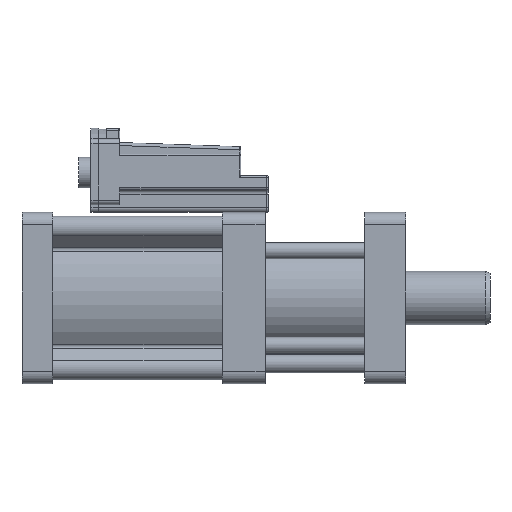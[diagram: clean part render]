
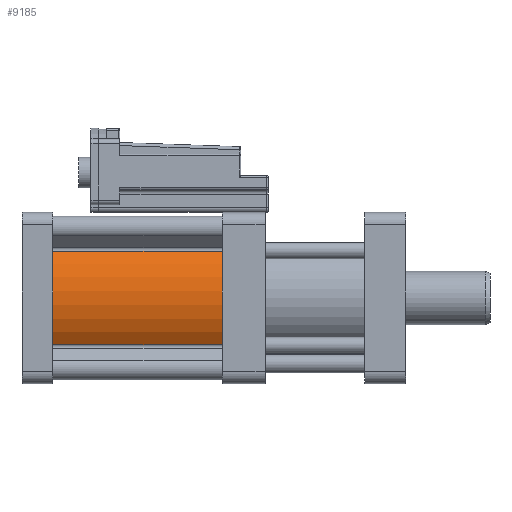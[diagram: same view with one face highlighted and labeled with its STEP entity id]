
A CAD part, left-side view. The second image highlights one B-rep face of the part: STEP entity #9185.
In plain terms, the highlighted cylindrical face has radius 53 mm (diameter 106 mm), a partial arc.
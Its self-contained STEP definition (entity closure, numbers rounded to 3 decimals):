
#802 = CIRCLE ( 'NONE', #14049, 53. ) ;
#1974 = ORIENTED_EDGE ( 'NONE', *, *, #13940, .T. ) ;
#2688 = DIRECTION ( 'NONE',  ( 0., -1., 0. ) ) ;
#2744 = VERTEX_POINT ( 'NONE', #14237 ) ;
#2918 = LINE ( 'NONE', #4299, #14310 ) ;
#2934 = ORIENTED_EDGE ( 'NONE', *, *, #7183, .F. ) ;
#3336 = DIRECTION ( 'NONE',  ( 0., 0., -1. ) ) ;
#3551 = CARTESIAN_POINT ( 'NONE',  ( 0., -81., -56. ) ) ;
#4081 = DIRECTION ( 'NONE',  ( 0., 1., 0. ) ) ;
#4299 = CARTESIAN_POINT ( 'NONE',  ( -43.387, 181.321, -25.56 ) ) ;
#4660 = DIRECTION ( 'NONE',  ( 0., 0., 1. ) ) ;
#4846 = ORIENTED_EDGE ( 'NONE', *, *, #5361, .T. ) ;
#5028 = CARTESIAN_POINT ( 'NONE',  ( -43.387, -81., -86.44 ) ) ;
#5130 = CARTESIAN_POINT ( 'NONE',  ( -43.387, -81., -25.56 ) ) ;
#5233 = FACE_OUTER_BOUND ( 'NONE', #13334, .T. ) ;
#5361 = EDGE_CURVE ( 'NONE', #12511, #11157, #7056, .T. ) ;
#5789 = EDGE_CURVE ( 'NONE', #13583, #11157, #2918, .T. ) ;
#6708 = DIRECTION ( 'NONE',  ( 0., -1., 0. ) ) ;
#7056 = CIRCLE ( 'NONE', #13757, 53. ) ;
#7183 = EDGE_CURVE ( 'NONE', #2744, #13583, #802, .T. ) ;
#7647 = DIRECTION ( 'NONE',  ( 0., -1., 0. ) ) ;
#8670 = VECTOR ( 'NONE', #2688, 1000. ) ;
#8888 = ORIENTED_EDGE ( 'NONE', *, *, #5789, .F. ) ;
#8932 = AXIS2_PLACEMENT_3D ( 'NONE', #13216, #6708, #3336 ) ;
#9185 = ADVANCED_FACE ( 'NONE', ( #5233 ), #10084, .T. ) ;
#9345 = CARTESIAN_POINT ( 'NONE',  ( -43.387, 181.321, -86.44 ) ) ;
#10084 = CYLINDRICAL_SURFACE ( 'NONE', #8932, 53. ) ;
#10729 = CARTESIAN_POINT ( 'NONE',  ( 0., 30., -56. ) ) ;
#11157 = VERTEX_POINT ( 'NONE', #5130 ) ;
#11304 = DIRECTION ( 'NONE',  ( 0., 1., 0. ) ) ;
#11631 = LINE ( 'NONE', #9345, #8670 ) ;
#11730 = CARTESIAN_POINT ( 'NONE',  ( -43.387, 30., -25.56 ) ) ;
#11848 = DIRECTION ( 'NONE',  ( 0., 0., 1. ) ) ;
#12511 = VERTEX_POINT ( 'NONE', #5028 ) ;
#13216 = CARTESIAN_POINT ( 'NONE',  ( 0., 181.321, -56. ) ) ;
#13334 = EDGE_LOOP ( 'NONE', ( #2934, #1974, #4846, #8888 ) ) ;
#13583 = VERTEX_POINT ( 'NONE', #11730 ) ;
#13757 = AXIS2_PLACEMENT_3D ( 'NONE', #3551, #11304, #4660 ) ;
#13940 = EDGE_CURVE ( 'NONE', #2744, #12511, #11631, .T. ) ;
#14049 = AXIS2_PLACEMENT_3D ( 'NONE', #10729, #4081, #11848 ) ;
#14237 = CARTESIAN_POINT ( 'NONE',  ( -43.387, 30., -86.44 ) ) ;
#14310 = VECTOR ( 'NONE', #7647, 1000. ) ;
